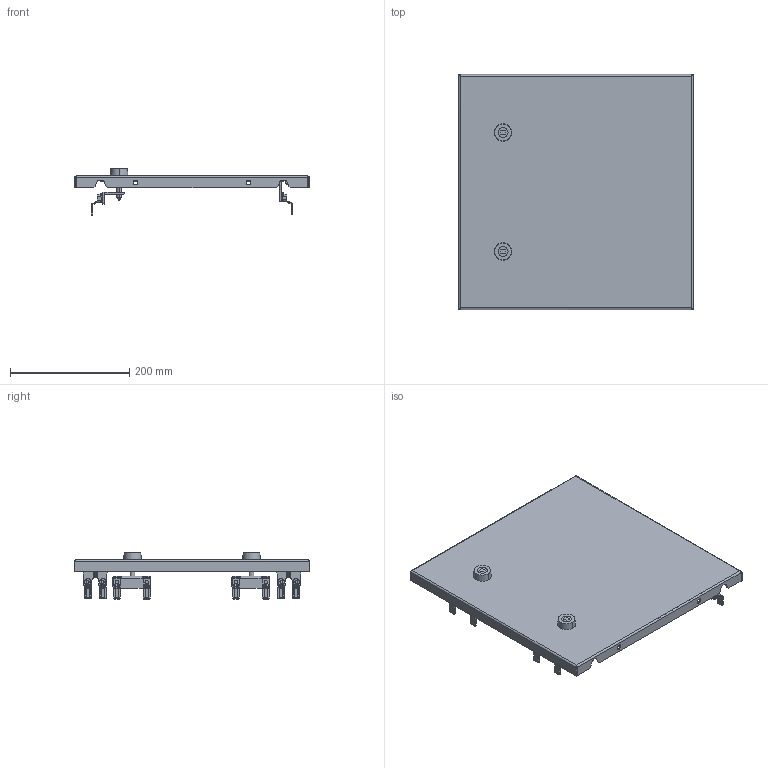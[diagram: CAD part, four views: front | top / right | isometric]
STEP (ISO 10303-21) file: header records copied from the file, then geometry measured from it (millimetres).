
FILE_DESCRIPTION(('CAx-IF Rec.Pracs.---Model Styling and Organization---1.2---2011-12-15','CAx-IF Rec.Pracs.---Geometric and Assembly Validation Properties---4.1---2014-06-16','CAx-IF Rec.Pracs.---PMI Polyline Presentation---2.0---2013-05-24'),'2;1');
FILE_NAME('R5CPMEM4400.stp','2021-05-06T03:49:38+03:00',(''),(''),'STEP Interface 4.4 by CT CoreTechnologie','3D_Evolution4.4 by CT CoreTechnologie','');
FILE_SCHEMA(('AUTOMOTIVE_DESIGN { 1 0 10303 214 1 1 1 1 }'));
Length unit declared in the file: millimetre
Products named in the file (17): R5CPMEM4400; MS737-1-1(1); MS737-1-1 Z_ ªàëâ; MS737-1-1 stop_fixed; M6 x 16-DIN 7991 ISR_thread; RB.0116.00.00.2_-00; AC00C485; MS737-1-1(2); AC00C745; RB.0556.00.00.3 ÑÁ_-08; AC00C061_AC00C061; Ì6õ12-A5100231_thread; RB.0556.00.01.1_-08; AC00C266; PF 7x14 R5PKEB_0400x0400; Ì6õ12-A5100231_straight; RB.0687.00.00.1
Assembly tree (39 placements, depth 3):
  R5CPMEM4400
    MS737-1-1(1)
      MS737-1-1 Z_ ªàëâ
      MS737-1-1 stop_fixed
    M6 x 16-DIN 7991 ISR_thread  x8
    RB.0116.00.00.2_-00  x2
    AC00C485  x8
    MS737-1-1(2)
      MS737-1-1 stop_fixed
      MS737-1-1 Z_ ªàëâ
    AC00C745  x2
    RB.0556.00.00.3 ÑÁ_-08
      AC00C061_AC00C061  x3
      Ì6õ12-A5100231_thread  x2
      RB.0556.00.01.1_-08
      AC00C266  x2
      PF 7x14 R5PKEB_0400x0400
      Ì6õ12-A5100231_straight
    RB.0687.00.00.1  x2
Bounding box: 394 x 395 x 77.95 mm (x, y, z)
Surface area: 477992.2 mm2 (no closed solid volume)
Topology: 0 solids, 56 shells, 2296 faces, 6032 edges, 3838 vertices
Faces by surface type: bspline 860, cylinder 748, plane 688
Entity records: 34701 total; most frequent: CARTESIAN_POINT 11474, ORIENTED_EDGE 4878, DIRECTION 4520, EDGE_CURVE 2439, AXIS2_PLACEMENT_3D 1638, VERTEX_POINT 1578, VECTOR 1244, LINE 1244
